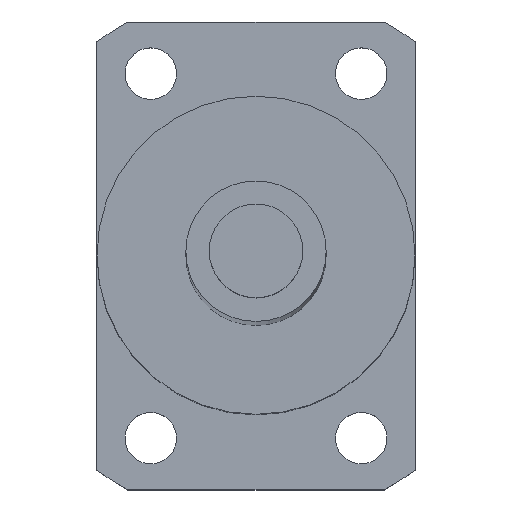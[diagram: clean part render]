
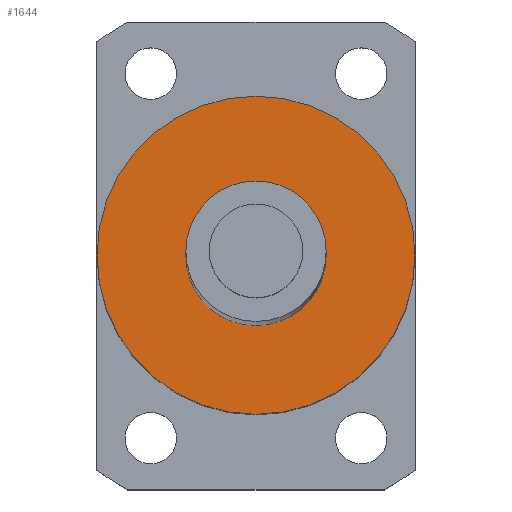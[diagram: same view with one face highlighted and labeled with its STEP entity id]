
A CAD part, top view. The second image highlights one B-rep face of the part: STEP entity #1644.
In plain terms, the highlighted planar face has unit normal (0, 0, 1).
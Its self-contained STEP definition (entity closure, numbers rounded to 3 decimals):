
#512=CARTESIAN_POINT('',(0.,0.,357.5));
#513=DIRECTION('',(0.,0.,1.));
#514=DIRECTION('',(1.,0.,0.));
#515=AXIS2_PLACEMENT_3D('',#512,#513,#514);
#517=CARTESIAN_POINT('',(0.,0.,357.5));
#518=DIRECTION('',(0.,0.,1.));
#519=DIRECTION('',(-1.,0.,0.));
#520=AXIS2_PLACEMENT_3D('',#517,#518,#519);
#522=CARTESIAN_POINT('',(0.,0.,357.5));
#523=DIRECTION('',(0.,0.,1.));
#524=DIRECTION('',(1.,0.,0.));
#525=AXIS2_PLACEMENT_3D('',#522,#523,#524);
#527=CARTESIAN_POINT('',(0.,0.,357.5));
#528=DIRECTION('',(0.,0.,1.));
#529=DIRECTION('',(-1.,0.,0.));
#530=AXIS2_PLACEMENT_3D('',#527,#528,#529);
#757=CARTESIAN_POINT('',(17.,0.,357.5));
#758=CARTESIAN_POINT('',(-17.,0.,357.5));
#759=VERTEX_POINT('',#757);
#760=VERTEX_POINT('',#758);
#769=CARTESIAN_POINT('',(7.5,0.,357.5));
#770=CARTESIAN_POINT('',(-7.5,0.,357.5));
#771=VERTEX_POINT('',#769);
#772=VERTEX_POINT('',#770);
#1629=CARTESIAN_POINT('',(0.,0.,357.5));
#1630=DIRECTION('',(0.,0.,1.));
#1631=DIRECTION('',(1.,0.,0.));
#1632=AXIS2_PLACEMENT_3D('',#1629,#1630,#1631);
#1633=PLANE('',#1632);
#1634=ORIENTED_EDGE('',*,*,#1609,.F.);
#1635=ORIENTED_EDGE('',*,*,#1623,.F.);
#1636=EDGE_LOOP('',(#1634,#1635));
#1637=FACE_OUTER_BOUND('',#1636,.F.);
#1639=ORIENTED_EDGE('',*,*,#1638,.T.);
#1641=ORIENTED_EDGE('',*,*,#1640,.T.);
#1642=EDGE_LOOP('',(#1639,#1641));
#1643=FACE_BOUND('',#1642,.F.);
#1644=ADVANCED_FACE('',(#1637,#1643),#1633,.T.);
#516=CIRCLE('',#515,17.);
#521=CIRCLE('',#520,17.);
#526=CIRCLE('',#525,7.5);
#531=CIRCLE('',#530,7.5);
#1609=EDGE_CURVE('',#759,#760,#516,.T.);
#1623=EDGE_CURVE('',#760,#759,#521,.T.);
#1638=EDGE_CURVE('',#771,#772,#526,.T.);
#1640=EDGE_CURVE('',#772,#771,#531,.T.);
